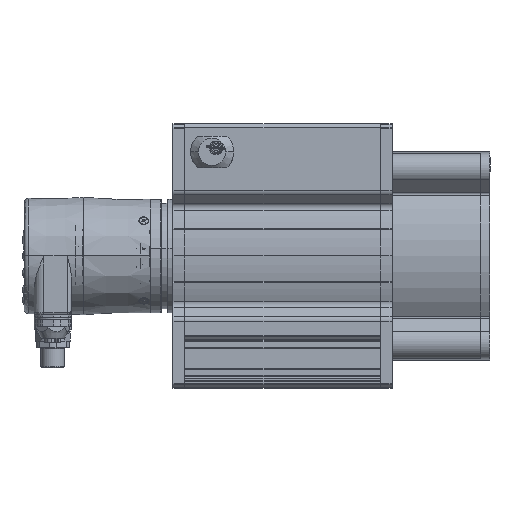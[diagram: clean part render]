
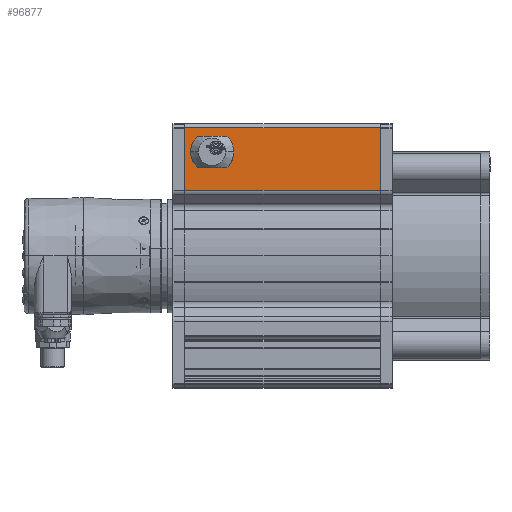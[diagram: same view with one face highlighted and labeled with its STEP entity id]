
A CAD part, top view. The second image highlights one B-rep face of the part: STEP entity #96877.
In plain terms, the highlighted planar face has unit normal (0, 0, 1).
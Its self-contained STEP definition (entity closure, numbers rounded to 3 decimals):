
#19047 = DIRECTION ( 'NONE',  ( 0., 1., 0. ) ) ;
#19048 = VECTOR ( 'NONE', #19047, 1000. ) ;
#19049 = CARTESIAN_POINT ( 'NONE',  ( -144.087, 48.176, 81.658 ) ) ;
#19050 = LINE ( 'NONE', #19049, #19048 ) ;
#19622 = CARTESIAN_POINT ( 'NONE',  ( -244.087, 80.316, 81.658 ) ) ;
#19624 = CARTESIAN_POINT ( 'NONE',  ( -144.087, 80.316, 81.658 ) ) ;
#19625 = DIRECTION ( 'NONE',  ( -1., 0., 0. ) ) ;
#19626 = VECTOR ( 'NONE', #19625, 1000. ) ;
#19627 = CARTESIAN_POINT ( 'NONE',  ( -244.087, 80.316, 81.658 ) ) ;
#19629 = LINE ( 'NONE', #19627, #19626 ) ;
#19779 = DIRECTION ( 'NONE',  ( 0., 1., 0. ) ) ;
#19780 = VECTOR ( 'NONE', #19779, 1000. ) ;
#19781 = CARTESIAN_POINT ( 'NONE',  ( -244.087, 81.179, 81.658 ) ) ;
#19782 = LINE ( 'NONE', #19781, #19780 ) ;
#20748 = CARTESIAN_POINT ( 'NONE',  ( -230.087, 67.789, 81.658 ) ) ;
#20749 = AXIS2_PLACEMENT_3D ( 'NONE', #20748, #20865, #20864 ) ;
#20757 = CIRCLE ( 'NONE', #20749, 5.5 ) ;
#20864 = DIRECTION ( 'NONE',  ( -1., 0., 0. ) ) ;
#20865 = DIRECTION ( 'NONE',  ( 0., 0., 1. ) ) ;
#34165 = CARTESIAN_POINT ( 'NONE',  ( -244.087, 48.176, 81.658 ) ) ;
#41746 = FACE_BOUND ( 'NONE', #93407, .T. ) ;
#41748 = FACE_OUTER_BOUND ( 'NONE', #96820, .T. ) ;
#41749 = FACE_BOUND ( 'NONE', #96880, .T. ) ;
#41750 = FACE_BOUND ( 'NONE', #96881, .T. ) ;
#41784 = DIRECTION ( 'NONE',  ( -1., 0., 0. ) ) ;
#41785 = DIRECTION ( 'NONE',  ( 0., 0., -1. ) ) ;
#41786 = CARTESIAN_POINT ( 'NONE',  ( -244.087, 48.176, 81.658 ) ) ;
#41787 = AXIS2_PLACEMENT_3D ( 'NONE', #41786, #41785, #41784 ) ;
#41790 = PLANE ( 'NONE',  #41787 ) ;
#41850 = DIRECTION ( 'NONE',  ( -1., 0., 0. ) ) ;
#41851 = VECTOR ( 'NONE', #41850, 1000. ) ;
#41852 = CARTESIAN_POINT ( 'NONE',  ( -244.087, 48.176, 81.658 ) ) ;
#41858 = LINE ( 'NONE', #41852, #41851 ) ;
#41908 = CARTESIAN_POINT ( 'NONE',  ( -144.087, 48.176, 81.658 ) ) ;
#57543 = CARTESIAN_POINT ( 'NONE',  ( -236.737, 67.789, 81.658 ) ) ;
#57592 = CARTESIAN_POINT ( 'NONE',  ( -223.437, 67.789, 81.658 ) ) ;
#57593 = DIRECTION ( 'NONE',  ( -1., 0., 0. ) ) ;
#57594 = DIRECTION ( 'NONE',  ( 0., 0., 1. ) ) ;
#57595 = CARTESIAN_POINT ( 'NONE',  ( -221.837, 67.789, 81.658 ) ) ;
#57596 = AXIS2_PLACEMENT_3D ( 'NONE', #57595, #57594, #57593 ) ;
#57597 = CIRCLE ( 'NONE', #57596, 1.6 ) ;
#57647 = CARTESIAN_POINT ( 'NONE',  ( -224.587, 67.789, 81.658 ) ) ;
#57648 = CARTESIAN_POINT ( 'NONE',  ( -235.587, 67.789, 81.658 ) ) ;
#57650 = CARTESIAN_POINT ( 'NONE',  ( -220.237, 67.789, 81.658 ) ) ;
#57665 = CARTESIAN_POINT ( 'NONE',  ( -239.937, 67.789, 81.658 ) ) ;
#57666 = DIRECTION ( 'NONE',  ( -1., 0., 0. ) ) ;
#57667 = DIRECTION ( 'NONE',  ( 0., 0., 1. ) ) ;
#57668 = CARTESIAN_POINT ( 'NONE',  ( -238.337, 67.789, 81.658 ) ) ;
#57670 = AXIS2_PLACEMENT_3D ( 'NONE', #57668, #57667, #57666 ) ;
#57677 = CIRCLE ( 'NONE', #57670, 1.6 ) ;
#61129 = EDGE_CURVE ( 'NONE', #100632, #100673, #96777, .T. ) ;
#61162 = EDGE_CURVE ( 'NONE', #100656, #100655, #104075, .T. ) ;
#61235 = EDGE_CURVE ( 'NONE', #100659, #100658, #104193, .T. ) ;
#93403 = ORIENTED_EDGE ( 'NONE', *, *, #93406, .T. ) ;
#93406 = EDGE_CURVE ( 'NONE', #96924, #93473, #19050, .T. ) ;
#93407 = EDGE_LOOP ( 'NONE', ( #93409, #93413 ) ) ;
#93409 = ORIENTED_EDGE ( 'NONE', *, *, #100654, .F. ) ;
#93413 = ORIENTED_EDGE ( 'NONE', *, *, #61162, .F. ) ;
#93472 = EDGE_CURVE ( 'NONE', #93473, #93476, #19629, .T. ) ;
#93473 = VERTEX_POINT ( 'NONE', #19624 ) ;
#93476 = VERTEX_POINT ( 'NONE', #19622 ) ;
#93479 = ORIENTED_EDGE ( 'NONE', *, *, #93482, .F. ) ;
#93482 = EDGE_CURVE ( 'NONE', #95189, #93476, #19782, .T. ) ;
#93484 = ORIENTED_EDGE ( 'NONE', *, *, #96897, .F. ) ;
#95189 = VERTEX_POINT ( 'NONE', #34165 ) ;
#96769 = DIRECTION ( 'NONE',  ( -1., 0., 0. ) ) ;
#96770 = DIRECTION ( 'NONE',  ( 0., 0., 1. ) ) ;
#96771 = CARTESIAN_POINT ( 'NONE',  ( -238.337, 67.789, 81.658 ) ) ;
#96772 = AXIS2_PLACEMENT_3D ( 'NONE', #96771, #96770, #96769 ) ;
#96777 = CIRCLE ( 'NONE', #96772, 1.6 ) ;
#96811 = ORIENTED_EDGE ( 'NONE', *, *, #93472, .T. ) ;
#96820 = EDGE_LOOP ( 'NONE', ( #96811, #93479, #93484, #93403 ) ) ;
#96837 = ORIENTED_EDGE ( 'NONE', *, *, #61129, .F. ) ;
#96877 = ADVANCED_FACE ( 'NONE', ( #41750, #41749, #41748, #41746 ), #41790, .F. ) ;
#96880 = EDGE_LOOP ( 'NONE', ( #96888, #96837 ) ) ;
#96881 = EDGE_LOOP ( 'NONE', ( #96906, #96916 ) ) ;
#96888 = ORIENTED_EDGE ( 'NONE', *, *, #100672, .F. ) ;
#96897 = EDGE_CURVE ( 'NONE', #96924, #95189, #41858, .T. ) ;
#96906 = ORIENTED_EDGE ( 'NONE', *, *, #100596, .F. ) ;
#96916 = ORIENTED_EDGE ( 'NONE', *, *, #61235, .F. ) ;
#96924 = VERTEX_POINT ( 'NONE', #41908 ) ;
#100596 = EDGE_CURVE ( 'NONE', #100658, #100659, #20757, .T. ) ;
#100632 = VERTEX_POINT ( 'NONE', #57543 ) ;
#100654 = EDGE_CURVE ( 'NONE', #100655, #100656, #57597, .T. ) ;
#100655 = VERTEX_POINT ( 'NONE', #57592 ) ;
#100656 = VERTEX_POINT ( 'NONE', #57650 ) ;
#100658 = VERTEX_POINT ( 'NONE', #57648 ) ;
#100659 = VERTEX_POINT ( 'NONE', #57647 ) ;
#100672 = EDGE_CURVE ( 'NONE', #100673, #100632, #57677, .T. ) ;
#100673 = VERTEX_POINT ( 'NONE', #57665 ) ;
#104071 = DIRECTION ( 'NONE',  ( -1., 0., 0. ) ) ;
#104072 = DIRECTION ( 'NONE',  ( 0., 0., 1. ) ) ;
#104073 = CARTESIAN_POINT ( 'NONE',  ( -221.837, 67.789, 81.658 ) ) ;
#104074 = AXIS2_PLACEMENT_3D ( 'NONE', #104073, #104072, #104071 ) ;
#104075 = CIRCLE ( 'NONE', #104074, 1.6 ) ;
#104189 = DIRECTION ( 'NONE',  ( -1., 0., 0. ) ) ;
#104190 = DIRECTION ( 'NONE',  ( 0., 0., 1. ) ) ;
#104191 = CARTESIAN_POINT ( 'NONE',  ( -230.087, 67.789, 81.658 ) ) ;
#104192 = AXIS2_PLACEMENT_3D ( 'NONE', #104191, #104190, #104189 ) ;
#104193 = CIRCLE ( 'NONE', #104192, 5.5 ) ;
